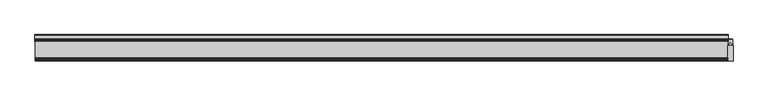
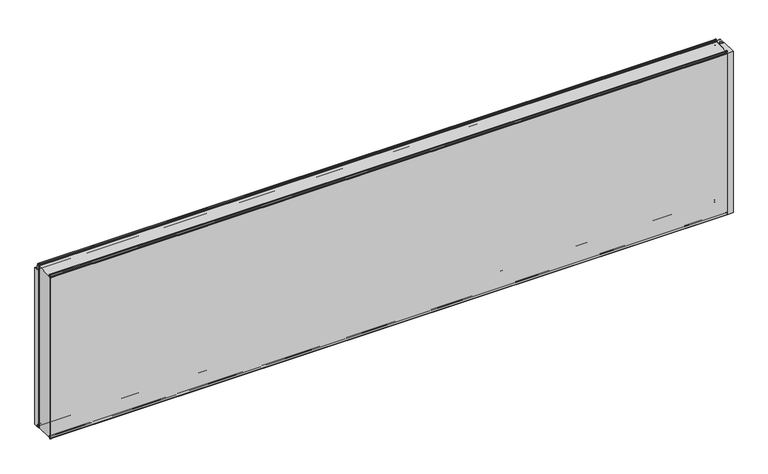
"""IFC4 building model written with IfcOpenShell, lengths in millimetres: plate geometry, Fronttop : Fronttop 150/1000."""

from ifc_helpers import new_model, si_unit, point, frame, frame_2d, origin, origin_with_axes, place, context, project, spatial, polyline, circle_curve, trimmed, segment, composite_curve, outline, extrude, source, transform, mapped, element, save
from ifc_brep_helpers import plane_surface, cylinder_surface, revolved_surface, advanced_brep


def plate_2335a061(model_context):
    return source(origin(), model_context, "Body", "SolidModel", [
        advanced_brep(
        [(-1986.5, 124.0, 1008.0), (-1986.5, 121.0, 1008.0), (-1986.5, 121.0, 1004.0), (-1986.5, 117.0, 1000.0), (-1986.5, 115.0, 1000.0), (-1986.5, 115.0, 1001.0), (-1986.5, 117.0, 1001.0), (-1986.5, 120.0, 1004.0), (-1986.5, 120.0, 1008.0), (-1986.5, 125.0, 1008.0), (-1986.5, 125.0, 1000.0), (-1986.5, 124.0, 1000.0), (1986.5, 125.0, 1008.0), (1986.5, 120.0, 1008.0), (1986.5, 120.0, 1004.0), (1986.5, 117.0, 1001.0), (1986.5, 115.0, 1001.0), (1986.5, 115.0, 1000.0), (1986.5, 117.0, 1000.0), (1986.5, 121.0, 1004.0), (1986.5, 121.0, 1008.0), (1986.5, 124.0, 1008.0), (1986.5, 124.0, 1000.0), (1986.5, 125.0, 1000.0), (-1986.5, 117.0, 2.0), (1986.5, 117.0, 2.0), (1986.5, 115.0, 2.0), (-1986.5, 115.0, 2.0), (-1986.5, 119.0, 4.0), (1986.5, 119.0, 4.0), (-1986.5, 119.0, 8.0), (1986.5, 119.0, 8.0), (-1986.5, 126.0, 8.0), (1986.5, 126.0, 8.0), (-1986.5, 126.0, 0.0), (1986.5, 126.0, 0.0), (-1986.5, 129.0, -3.0), (1986.5, 129.0, -3.0), (-1986.5, 125.0, -3.0), (-1987.5, 125.0, -3.0), (-1987.5, 147.0, -3.0), (-1986.5, 147.0, -3.0), (1986.5, 147.0, -3.0), (1987.5, 147.0, -3.0), (1987.5, 125.0, -3.0), (1986.5, 125.0, -3.0), (-1986.5, 150.0, 0.0), (1986.5, 150.0, 0.0), (-1987.5, 150.0, 0.0), (-1987.5, 150.0, 969.0), (-1986.5, 150.0, 969.0), (1986.5, 150.0, 969.0), (1987.5, 150.0, 969.0), (1987.5, 150.0, 0.0), (-1986.5, 147.0, 972.0), (1986.5, 147.0, 972.0), (-1987.5, 147.0, 972.0), (-1987.5, 128.0, 972.0), (-1986.5, 128.0, 972.0), (1986.5, 128.0, 972.0), (1987.5, 128.0, 972.0), (1987.5, 147.0, 972.0), (-1986.5, 125.0, 975.0), (1986.5, 125.0, 975.0), (-1987.5, 125.0, 975.0), (-1987.5, 125.0, 1000.0), (1987.5, 125.0, 1000.0), (1987.5, 125.0, 975.0), (-1986.5, 124.0, 975.0), (1986.5, 124.0, 975.0), (-1986.5, 128.0, 971.0), (1986.5, 128.0, 971.0), (-1986.5, 147.0, 971.0), (1986.5, 147.0, 971.0), (-1986.5, 149.0, 969.0), (1986.5, 149.0, 969.0), (-1986.5, 149.0, 0.0), (1986.5, 149.0, 0.0), (-1986.5, 147.0, -2.0), (1986.5, 147.0, -2.0), (-1986.5, 129.0, -2.0), (1986.5, 129.0, -2.0), (-1986.5, 127.0, 0.0), (1986.5, 127.0, 0.0), (-1986.5, 127.0, 8.0), (1986.5, 127.0, 8.0), (-1986.5, 118.0, 8.0), (1986.5, 118.0, 8.0), (-1986.5, 118.0, 4.0), (1986.5, 118.0, 4.0), (-1986.5, 117.0, 3.0), (1986.5, 117.0, 3.0), (-1986.5, 115.0, 3.0), (1986.5, 115.0, 3.0), (1987.5, 110.0, 1000.0), (1987.5, 110.0, 0.0), (1987.5, 125.0, 0.0), (1986.5, 125.0, 0.0), (1986.5, 110.0, 0.0), (1986.5, 110.0, 1000.0), (-1987.5, 125.0, 0.0), (-1987.5, 110.0, 0.0), (-1987.5, 110.0, 1000.0), (-1986.5, 110.0, 1000.0), (-1986.5, 110.0, 0.0), (-1986.5, 125.0, 0.0)],
        [
            (0, 1, circle_curve(frame((-1986.5, 122.5, 1008.0), z_axis=(1.0, 0.0, 0.0), x_axis=(0.0, -1.0, 0.0)), 1.5)),
            (1, 2),
            (2, 3, circle_curve(frame((-1986.5, 117.0, 1004.0), z_axis=(-1.0, 0.0, 0.0), x_axis=(0.0, -1.0, 0.0)), 4.0)),
            (3, 4),
            (4, 5),
            (5, 6),
            (6, 7, circle_curve(frame((-1986.5, 117.0, 1004.0), z_axis=(1.0, 0.0, 0.0), x_axis=(0.0, -1.0, 0.0)), 3.0)),
            (7, 8),
            (8, 9, circle_curve(frame((-1986.5, 122.5, 1008.0), z_axis=(-1.0, 0.0, 0.0), x_axis=(0.0, -1.0, 0.0)), 2.5)),
            (9, 10),
            (10, 11),
            (11, 0),
            (12, 13, circle_curve(frame((1986.5, 122.5, 1008.0), z_axis=(1.0, 0.0, 0.0), x_axis=(0.0, -1.0, 0.0)), 2.5)),
            (13, 14),
            (14, 15, circle_curve(frame((1986.5, 117.0, 1004.0), z_axis=(-1.0, 0.0, 0.0), x_axis=(0.0, -1.0, 0.0)), 3.0)),
            (15, 16),
            (16, 17),
            (17, 18),
            (18, 19, circle_curve(frame((1986.5, 117.0, 1004.0), z_axis=(1.0, 0.0, 0.0), x_axis=(0.0, -1.0, 0.0)), 4.0)),
            (19, 20),
            (20, 21, circle_curve(frame((1986.5, 122.5, 1008.0), z_axis=(-1.0, 0.0, 0.0), x_axis=(0.0, -1.0, 0.0)), 1.5)),
            (21, 22),
            (22, 23),
            (23, 12),
            (24, 25),
            (25, 26),
            (26, 27),
            (27, 24),
            (24, 28, circle_curve(frame((-1986.5, 117.0, 4.0), z_axis=(1.0, 0.0, 0.0), x_axis=(0.0, -1.0, 0.0)), 2.0)),
            (28, 29),
            (29, 25, circle_curve(frame((1986.5, 117.0, 4.0), z_axis=(-1.0, 0.0, 0.0), x_axis=(0.0, -1.0, 0.0)), 2.0)),
            (28, 30),
            (30, 31),
            (31, 29),
            (30, 32, circle_curve(frame((-1986.5, 122.5, 8.0), z_axis=(-1.0, 0.0, 0.0), x_axis=(0.0, -1.0, 0.0)), 3.5)),
            (32, 33),
            (33, 31, circle_curve(frame((1986.5, 122.5, 8.0), z_axis=(1.0, 0.0, 0.0), x_axis=(0.0, -1.0, 0.0)), 3.5)),
            (32, 34),
            (34, 35),
            (35, 33),
            (34, 36, circle_curve(frame((-1986.5, 129.0, 0.0), z_axis=(1.0, 0.0, 0.0), x_axis=(0.0, -1.0, 0.0)), 3.0)),
            (36, 37),
            (37, 35, circle_curve(frame((1986.5, 129.0, 0.0), z_axis=(-1.0, 0.0, 0.0), x_axis=(0.0, -1.0, 0.0)), 3.0)),
            (36, 38),
            (38, 39),
            (39, 40),
            (40, 41),
            (41, 42),
            (42, 43),
            (43, 44),
            (44, 45),
            (45, 37),
            (41, 46, circle_curve(frame((-1986.5, 147.0, 0.0), z_axis=(1.0, 0.0, 0.0), x_axis=(0.0, -1.0, 0.0)), 3.0)),
            (46, 47),
            (47, 42, circle_curve(frame((1986.5, 147.0, 0.0), z_axis=(-1.0, 0.0, 0.0), x_axis=(0.0, -1.0, 0.0)), 3.0)),
            (46, 48),
            (48, 49),
            (49, 50),
            (50, 51),
            (51, 52),
            (52, 53),
            (53, 47),
            (50, 54, circle_curve(frame((-1986.5, 147.0, 969.0), z_axis=(1.0, 0.0, 0.0), x_axis=(0.0, -1.0, 0.0)), 3.0)),
            (54, 55),
            (55, 51, circle_curve(frame((1986.5, 147.0, 969.0), z_axis=(-1.0, 0.0, 0.0), x_axis=(0.0, -1.0, 0.0)), 3.0)),
            (54, 56),
            (56, 57),
            (57, 58),
            (58, 59),
            (59, 60),
            (60, 61),
            (61, 55),
            (58, 62, circle_curve(frame((-1986.5, 128.0, 975.0), z_axis=(-1.0, 0.0, 0.0), x_axis=(0.0, -1.0, 0.0)), 3.0)),
            (62, 63),
            (63, 59, circle_curve(frame((1986.5, 128.0, 975.0), z_axis=(1.0, 0.0, 0.0), x_axis=(0.0, -1.0, 0.0)), 3.0)),
            (62, 64),
            (64, 65),
            (65, 10),
            (9, 12),
            (23, 66),
            (66, 67),
            (67, 63),
            (8, 13),
            (7, 14),
            (6, 15),
            (5, 16),
            (4, 17),
            (4, 3),
            (3, 18),
            (18, 17),
            (2, 19),
            (1, 20),
            (0, 21),
            (11, 68),
            (68, 69),
            (69, 22),
            (68, 70, circle_curve(frame((-1986.5, 128.0, 975.0), z_axis=(1.0, 0.0, 0.0), x_axis=(0.0, -1.0, 0.0)), 4.0)),
            (70, 71),
            (71, 69, circle_curve(frame((1986.5, 128.0, 975.0), z_axis=(-1.0, 0.0, 0.0), x_axis=(0.0, -1.0, 0.0)), 4.0)),
            (70, 72),
            (72, 73),
            (73, 71),
            (72, 74, circle_curve(frame((-1986.5, 147.0, 969.0), z_axis=(-1.0, 0.0, 0.0), x_axis=(0.0, -1.0, 0.0)), 2.0)),
            (74, 75),
            (75, 73, circle_curve(frame((1986.5, 147.0, 969.0), z_axis=(1.0, 0.0, 0.0), x_axis=(0.0, -1.0, 0.0)), 2.0)),
            (74, 76),
            (76, 77),
            (77, 75),
            (76, 78, circle_curve(frame((-1986.5, 147.0, 0.0), z_axis=(-1.0, 0.0, 0.0), x_axis=(0.0, -1.0, 0.0)), 2.0)),
            (78, 79),
            (79, 77, circle_curve(frame((1986.5, 147.0, 0.0), z_axis=(1.0, 0.0, 0.0), x_axis=(0.0, -1.0, 0.0)), 2.0)),
            (78, 80),
            (80, 81),
            (81, 79),
            (80, 82, circle_curve(frame((-1986.5, 129.0, 0.0), z_axis=(-1.0, 0.0, 0.0), x_axis=(0.0, -1.0, 0.0)), 2.0)),
            (82, 83),
            (83, 81, circle_curve(frame((1986.5, 129.0, 0.0), z_axis=(1.0, 0.0, 0.0), x_axis=(0.0, -1.0, 0.0)), 2.0)),
            (82, 84),
            (84, 85),
            (85, 83),
            (84, 86, circle_curve(frame((-1986.5, 122.5, 8.0), z_axis=(1.0, 0.0, 0.0), x_axis=(0.0, -1.0, 0.0)), 4.5)),
            (86, 87),
            (87, 85, circle_curve(frame((1986.5, 122.5, 8.0), z_axis=(-1.0, 0.0, 0.0), x_axis=(0.0, -1.0, 0.0)), 4.5)),
            (86, 88),
            (88, 89),
            (89, 87),
            (88, 90, circle_curve(frame((-1986.5, 117.0, 4.0), z_axis=(-1.0, 0.0, 0.0), x_axis=(0.0, -1.0, 0.0)), 1.0)),
            (90, 91),
            (91, 89, circle_curve(frame((1986.5, 117.0, 4.0), z_axis=(1.0, 0.0, 0.0), x_axis=(0.0, -1.0, 0.0)), 1.0)),
            (90, 92),
            (92, 93),
            (93, 91),
            (26, 93),
            (92, 27),
            (66, 94),
            (94, 95),
            (95, 96),
            (96, 44),
            (43, 53, circle_curve(frame((1987.5, 147.0, 0.0), z_axis=(1.0, 0.0, 0.0), x_axis=(0.0, 1.0, 0.0)), 3.0)),
            (52, 61, circle_curve(frame((1987.5, 147.0, 969.0), z_axis=(1.0, 0.0, 0.0), x_axis=(0.0, 1.0, 0.0)), 3.0)),
            (60, 67, circle_curve(frame((1987.5, 128.0, 975.0), z_axis=(-1.0, 0.0, 0.0), x_axis=(0.0, 1.0, 0.0)), 3.0)),
            (45, 97),
            (97, 98),
            (98, 99),
            (99, 17),
            (18, 22),
            (99, 94),
            (98, 95),
            (97, 96),
            (64, 57, circle_curve(frame((-1987.5, 128.0, 975.0), z_axis=(1.0, 0.0, 0.0), x_axis=(0.0, 1.0, 0.0)), 3.0)),
            (56, 49, circle_curve(frame((-1987.5, 147.0, 969.0), z_axis=(-1.0, 0.0, 0.0), x_axis=(0.0, 1.0, 0.0)), 3.0)),
            (48, 40, circle_curve(frame((-1987.5, 147.0, 0.0), z_axis=(-1.0, 0.0, 0.0), x_axis=(0.0, 1.0, 0.0)), 3.0)),
            (39, 100),
            (100, 101),
            (101, 102),
            (102, 65),
            (103, 104),
            (104, 105),
            (105, 38),
            (11, 3),
            (4, 103),
            (102, 103),
            (101, 104),
            (100, 105),
        ],
        [
            plane_surface(frame((-1986.5, 0.0, 0.0), z_axis=(-1.0, 0.0, 0.0), x_axis=(0.0, 0.0, 1.0))),
            plane_surface(frame((1986.5, 0.0, 0.0), z_axis=(1.0, 0.0, 0.0), x_axis=(0.0, 0.0, 1.0))),
            plane_surface(frame((-1986.5, 117.0, 2.0), z_axis=(0.0, 0.0, -1.0), x_axis=(1.0, 0.0, 0.0))),
            cylinder_surface(frame((-1986.5, 117.0, 4.0), z_axis=(-1.0, 0.0, 0.0), x_axis=(0.0, -1.0, 0.0)), 2.0),
            plane_surface(frame((-1986.5, 119.0, 8.0), z_axis=(0.0, 1.0, 0.0), x_axis=(1.0, 0.0, 0.0))),
            revolved_surface(polyline([(1986.5, 119.0, 8.0), (-1986.5, 119.0, 8.0)]), (-1986.5, 122.5, 8.0), (1.0, 0.0, 0.0)),
            plane_surface(frame((-1986.5, 126.0, 0.0), z_axis=(0.0, -1.0, 0.0), x_axis=(1.0, 0.0, 0.0))),
            cylinder_surface(frame((-1986.5, 129.0, 0.0), z_axis=(-1.0, 0.0, 0.0), x_axis=(0.0, -1.0, 0.0)), 3.0),
            plane_surface(frame((-1986.5, 147.0, -3.0), z_axis=(0.0, 0.0, -1.0), x_axis=(1.0, 0.0, 0.0))),
            cylinder_surface(frame((-1986.5, 147.0, 0.0), z_axis=(-1.0, 0.0, 0.0), x_axis=(0.0, -1.0, 0.0)), 3.0),
            plane_surface(frame((-1986.5, 150.0, 969.0), z_axis=(0.0, 1.0, 0.0), x_axis=(1.0, 0.0, 0.0))),
            cylinder_surface(frame((-1986.5, 147.0, 969.0), z_axis=(-1.0, 0.0, 0.0), x_axis=(0.0, -1.0, 0.0)), 3.0),
            plane_surface(frame((-1986.5, 128.0, 972.0), z_axis=(0.0, 0.0, 1.0), x_axis=(1.0, 0.0, 0.0))),
            revolved_surface(polyline([(1986.5, 125.0, 975.0), (-1986.5, 125.0, 975.0)]), (-1986.5, 128.0, 975.0), (1.0, 0.0, 0.0)),
            plane_surface(frame((-1986.5, 125.0, 1008.0), z_axis=(0.0, 1.0, 0.0), x_axis=(1.0, 0.0, 0.0))),
            cylinder_surface(frame((-1986.5, 122.5, 1008.0), z_axis=(-1.0, 0.0, 0.0), x_axis=(0.0, -1.0, 0.0)), 2.5),
            plane_surface(frame((-1986.5, 120.0, 1004.0), z_axis=(0.0, -1.0, 0.0), x_axis=(1.0, 0.0, 0.0))),
            revolved_surface(polyline([(1986.5, 114.0, 1004.0), (-1986.5, 114.0, 1004.0)]), (-1986.5, 117.0, 1004.0), (1.0, 0.0, 0.0)),
            plane_surface(frame((-1986.5, 115.0, 1001.0), z_axis=(0.0, 0.0, 1.0), x_axis=(1.0, 0.0, 0.0))),
            plane_surface(frame((-1986.5, 115.0, 1000.0), z_axis=(0.0, -1.0, 0.0), x_axis=(1.0, 0.0, 0.0))),
            plane_surface(frame((-1986.5, 117.0, 1000.0), z_axis=(0.0, 0.0, -1.0), x_axis=(1.0, 0.0, 0.0))),
            cylinder_surface(frame((-1986.5, 117.0, 1004.0), z_axis=(-1.0, 0.0, 0.0), x_axis=(0.0, -1.0, 0.0)), 4.0),
            plane_surface(frame((-1986.5, 121.0, 1008.0), z_axis=(0.0, 1.0, 0.0), x_axis=(1.0, 0.0, 0.0))),
            revolved_surface(polyline([(1986.5, 121.0, 1008.0), (-1986.5, 121.0, 1008.0)]), (-1986.5, 122.5, 1008.0), (1.0, 0.0, 0.0)),
            plane_surface(frame((-1986.5, 124.0, 975.0), z_axis=(0.0, -1.0, 0.0), x_axis=(1.0, 0.0, 0.0))),
            cylinder_surface(frame((-1986.5, 128.0, 975.0), z_axis=(-1.0, 0.0, 0.0), x_axis=(0.0, -1.0, 0.0)), 4.0),
            plane_surface(frame((-1986.5, 147.0, 971.0), z_axis=(0.0, 0.0, -1.0), x_axis=(1.0, 0.0, 0.0))),
            revolved_surface(polyline([(1986.5, 145.0, 969.0), (-1986.5, 145.0, 969.0)]), (-1986.5, 147.0, 969.0), (1.0, 0.0, 0.0)),
            plane_surface(frame((-1986.5, 149.0, 0.0), z_axis=(0.0, -1.0, 0.0), x_axis=(1.0, 0.0, 0.0))),
            revolved_surface(polyline([(1986.5, 145.0, 0.0), (-1986.5, 145.0, 0.0)]), (-1986.5, 147.0, 0.0), (1.0, 0.0, 0.0)),
            plane_surface(frame((-1986.5, 129.0, -2.0), z_axis=(0.0, 0.0, 1.0), x_axis=(1.0, 0.0, 0.0))),
            revolved_surface(polyline([(1986.5, 127.0, 0.0), (-1986.5, 127.0, 0.0)]), (-1986.5, 129.0, 0.0), (1.0, 0.0, 0.0)),
            plane_surface(frame((-1986.5, 127.0, 8.0), z_axis=(0.0, 1.0, 0.0), x_axis=(1.0, 0.0, 0.0))),
            cylinder_surface(frame((-1986.5, 122.5, 8.0), z_axis=(-1.0, 0.0, 0.0), x_axis=(0.0, -1.0, 0.0)), 4.5),
            plane_surface(frame((-1986.5, 118.0, 4.0), z_axis=(0.0, -1.0, 0.0), x_axis=(1.0, 0.0, 0.0))),
            revolved_surface(polyline([(1986.5, 116.0, 4.0), (-1986.5, 116.0, 4.0)]), (-1986.5, 117.0, 4.0), (1.0, 0.0, 0.0)),
            plane_surface(frame((-1986.5, 115.0, 3.0), z_axis=(0.0, 0.0, 1.0), x_axis=(1.0, 0.0, 0.0))),
            plane_surface(frame((-1986.5, 115.0, 2.0), z_axis=(0.0, -1.0, 0.0), x_axis=(1.0, 0.0, 0.0))),
            plane_surface(frame((1987.5, 125.0, 1000.0), z_axis=(1.0, 0.0, 0.0), x_axis=(0.0, -1.0, 0.0))),
            plane_surface(frame((1986.5, 125.0, 1000.0), z_axis=(-1.0, 0.0, 0.0), x_axis=(0.0, 1.0, 0.0))),
            plane_surface(frame((1987.5, 125.0, 1000.0), z_axis=(0.0, 0.0, 1.0), x_axis=(-1.0, 0.0, 0.0))),
            plane_surface(frame((1987.5, 110.0, 1000.0), z_axis=(0.0, -1.0, 0.0), x_axis=(-1.0, 0.0, 0.0))),
            plane_surface(frame((1987.5, 110.0, 0.0), z_axis=(0.0, 0.0, -1.0), x_axis=(-1.0, 0.0, 0.0))),
            cylinder_surface(frame((1986.5, 147.0, 0.0), z_axis=(1.0, 0.0, 0.0), x_axis=(0.0, 1.0, 0.0)), 3.0),
            cylinder_surface(frame((1986.5, 147.0, 969.0), z_axis=(1.0, 0.0, 0.0), x_axis=(0.0, 1.0, 0.0)), 3.0),
            revolved_surface(polyline([(1986.5, 131.0, 975.0), (1987.5, 131.0, 975.0)]), (1986.5, 128.0, 975.0), (-1.0, 0.0, 0.0)),
            plane_surface(frame((-1987.5, 125.0, 1000.0), z_axis=(-1.0, 0.0, 0.0), x_axis=(0.0, 1.0, 0.0))),
            plane_surface(frame((-1986.5, 125.0, 1000.0), z_axis=(1.0, 0.0, 0.0), x_axis=(0.0, -1.0, 0.0))),
            plane_surface(frame((-1986.5, 125.0, 1000.0), z_axis=(0.0, 0.0, 1.0), x_axis=(-1.0, 0.0, 0.0))),
            plane_surface(frame((-1986.5, 110.0, 1000.0), z_axis=(0.0, -1.0, 0.0), x_axis=(-1.0, 0.0, 0.0))),
            plane_surface(frame((-1986.5, 110.0, 0.0), z_axis=(0.0, 0.0, -1.0), x_axis=(-1.0, 0.0, 0.0))),
            cylinder_surface(frame((-1987.5, 147.0, 0.0), z_axis=(1.0, 0.0, 0.0), x_axis=(0.0, 1.0, 0.0)), 3.0),
            cylinder_surface(frame((-1987.5, 147.0, 969.0), z_axis=(1.0, 0.0, 0.0), x_axis=(0.0, 1.0, 0.0)), 3.0),
            revolved_surface(polyline([(-1987.5, 131.0, 975.0), (-1986.5, 131.0, 975.0)]), (-1987.5, 128.0, 975.0), (-1.0, 0.0, 0.0)),
            plane_surface(frame((1987.5, 125.0, 0.0), z_axis=(0.0, -1.0, 0.0), x_axis=(-1.0, 0.0, 0.0))),
            plane_surface(frame((-1986.5, 125.0, 0.0), z_axis=(0.0, -1.0, 0.0), x_axis=(-1.0, 0.0, 0.0))),
        ],
        [
            (0, [[1, 2, 3, 4, 5, 6, 7, 8, 9, 10, 11, 12]]),
            (1, [[13, 14, 15, 16, 17, 18, 19, 20, 21, 22, 23, 24]]),
            (2, [[25, 26, 27, 28]]),
            (3, [[-25, 29, 30, 31]]),
            (4, [[-30, 32, 33, 34]]),
            (5, [[-33, 35, 36, 37]]),
            (6, [[-36, 38, 39, 40]]),
            (7, [[-39, 41, 42, 43]]),
            (8, [[-42, 44, 45, 46, 47, 48, 49, 50, 51, 52]]),
            (9, [[-48, 53, 54, 55]]),
            (10, [[-54, 56, 57, 58, 59, 60, 61, 62]]),
            (11, [[-59, 63, 64, 65]]),
            (12, [[-64, 66, 67, 68, 69, 70, 71, 72]]),
            (13, [[-69, 73, 74, 75]]),
            (14, [[-74, 76, 77, 78, -10, 79, -24, 80, 81, 82]]),
            (15, [[-9, 83, -13, -79]]),
            (16, [[-8, 84, -14, -83]]),
            (17, [[-7, 85, -15, -84]]),
            (18, [[-6, 86, -16, -85]]),
            (19, [[-5, 87, -17, -86]]),
            (20, [[-87, 88, 89, 90]]),
            (21, [[-3, 91, -19, -89]]),
            (22, [[-2, 92, -20, -91]]),
            (23, [[-1, 93, -21, -92]]),
            (24, [[-93, -12, 94, 95, 96, -22]]),
            (25, [[-95, 97, 98, 99]]),
            (26, [[-98, 100, 101, 102]]),
            (27, [[-101, 103, 104, 105]]),
            (28, [[-104, 106, 107, 108]]),
            (29, [[-107, 109, 110, 111]]),
            (30, [[-110, 112, 113, 114]]),
            (31, [[-113, 115, 116, 117]]),
            (32, [[-116, 118, 119, 120]]),
            (33, [[-119, 121, 122, 123]]),
            (34, [[-122, 124, 125, 126]]),
            (35, [[-125, 127, 128, 129]]),
            (36, [[-128, 130, 131, 132]]),
            (37, [[-27, 133, -131, 134]]),
            (38, [[135, 136, 137, 138, -50, 139, -61, 140, -71, 141, -81]]),
            (39, [[142, 143, 144, 145, -90, 146, -96, -99, -102, -105, -108, -111, -114, -117, -120, -123, -126, -129, -132, -133, -26, -31, -34, -37, -40, -43, -52]]),
            (40, [[-135, -80, -23, -146, -18, -145, 147]]),
            (41, [[-136, -147, -144, 148]]),
            (42, [[-137, -148, -143, 149]]),
            (43, [[-139, -49, -55, -62]]),
            (44, [[-140, -60, -65, -72]]),
            (45, [[-141, -70, -75, -82]]),
            (46, [[-77, 150, -67, 151, -57, 152, -46, 153, 154, 155, 156]]),
            (47, [[157, 158, 159, -44, -41, -38, -35, -32, -29, -28, -134, -130, -127, -124, -121, -118, -115, -112, -109, -106, -103, -100, -97, -94, 160, -88, 161]]),
            (48, [[-156, 162, -161, -4, -160, -11, -78]]),
            (49, [[-155, 163, -157, -162]]),
            (50, [[-154, 164, -158, -163]]),
            (51, [[-152, -56, -53, -47]]),
            (52, [[-151, -66, -63, -58]]),
            (53, [[-150, -76, -73, -68]]),
            (54, [[-138, -149, -142, -51]]),
            (55, [[-153, -45, -159, -164]]),
        ],
    ),
        extrude(outline(composite_curve([segment(polyline([(1987.4998455, 123.5), (1999.25, 123.5), (1999.25, 107.5), (2000.75, 107.5), (2000.75, 123.5), (2012.5001545, 123.5), (2012.5001545, 90.0), (2009.75, 90.0), (2009.75, 92.5)]), True, "CONTINUOUS"), segment(trimmed(circle_curve(frame_2d((1991.9661979, 89.3183984)), 18.0661619), [point((2009.75, 92.5))], [point((2000.0, 105.5))], True, "CARTESIAN"), True, "CONTINUOUS"), segment(trimmed(circle_curve(frame_2d((2008.0338021, 89.3183984)), 18.0661619), [point((2000.0, 105.5))], [point((1990.25, 92.5))], True, "CARTESIAN"), True, "CONTINUOUS"), segment(polyline([(1990.25, 92.5), (1990.25, 90.0), (1987.4998455, 90.0), (1987.4998455, 123.5)]), True, "CONTINUOUS")], self_intersect=False)), origin_with_axes(), (0.0, 0.0, 1.0), 1000.0),
        extrude(outline(polyline([(2015.5, 0.0), (1984.5, 0.0), (1984.5, 88.0), (2015.5, 88.0), (2015.5, 0.0)])), origin_with_axes(), (0.0, 0.0, 1.0), 1000.0),
        extrude(outline(polyline([(1988.4948846, 125.0), (2011.5051154, 125.0), (2011.5051154, 123.5), (2000.6502496, 123.5), (2000.6502496, 109.0759655), (1999.35, 109.0759655), (1999.35, 123.5), (1988.4948846, 123.5), (1988.4948846, 125.0)])), origin_with_axes(), (0.0, 0.0, 1.0), 1000.0),
        advanced_brep(
        [(-1984.5, 13.0, 1001.0), (-1984.5, 15.0, 1001.0), (-1984.5, 15.0, 1000.0), (-1984.5, 13.0, 1000.0), (-1984.5, 9.0, 1004.0), (-1984.5, 9.0, 1008.0), (-1984.5, 6.0, 1008.0), (-1984.5, 6.0, 999.5), (-1984.5, 2.1134897, 996.0214069), (-1984.5, 1.0, 995.0), (-1984.5, 1.0, -0.5), (-1984.5, 3.0, -0.5), (-1984.5, 3.0, 8.0), (-1984.5, 12.0, 8.0), (-1984.5, 12.0, 4.0), (-1984.5, 13.0, 3.0), (-1984.5, 15.0, 3.0), (-1984.5, 15.0, 2.0), (-1984.5, 13.0, 2.0), (-1984.5, 11.0, 4.0), (-1984.5, 11.0, 8.0), (-1984.5, 4.0, 8.0), (-1984.5, 4.0, -0.5), (-1984.5, 0.0, -0.5), (-1984.5, 0.0, 995.0), (-1984.5, 2.220863, 996.9877675), (-1984.5, 5.0, 999.5), (-1984.5, 5.0, 1008.0), (-1984.5, 10.0, 1008.0), (-1984.5, 10.0, 1004.0), (1984.5, 13.0, 1001.0), (1984.5, 10.0, 1004.0), (1984.5, 10.0, 1008.0), (1984.5, 5.0, 1008.0), (1984.5, 5.0, 999.5), (1984.5, 2.2239212, 997.0152907), (1984.5, 0.0, 995.0), (1984.5, 0.0, -0.5), (1984.5, 4.0, -0.5), (1984.5, 4.0, 8.0), (1984.5, 11.0, 8.0), (1984.5, 11.0, 4.0), (1984.5, 13.0, 2.0), (1984.5, 15.0, 2.0), (1984.5, 15.0, 3.0), (1984.5, 13.0, 3.0), (1984.5, 12.0, 4.0), (1984.5, 12.0, 8.0), (1984.5, 3.0, 8.0), (1984.5, 3.0, -0.5), (1984.5, 1.0, -0.5), (1984.5, 1.0, 995.0), (1984.5, 2.1104315, 995.9938837), (1984.5, 6.0, 999.5), (1984.5, 6.0, 1008.0), (1984.5, 9.0, 1008.0), (1984.5, 9.0, 1004.0), (1984.5, 13.0, 1000.0), (1984.5, 15.0, 1000.0), (1984.5, 15.0, 1001.0)],
        [
            (0, 1),
            (1, 2),
            (2, 3),
            (3, 4, circle_curve(frame((-1984.5, 13.0, 1004.0), z_axis=(-1.0, 0.0, 0.0), x_axis=(0.0, -1.0, 0.0)), 4.0)),
            (4, 5),
            (5, 6, circle_curve(frame((-1984.5, 7.5, 1008.0), z_axis=(1.0, 0.0, 0.0), x_axis=(0.0, -1.0, 0.0)), 1.5)),
            (6, 7),
            (7, 8, circle_curve(frame((-1984.5, 2.5, 999.5), z_axis=(-1.0, 0.0, 0.0), x_axis=(0.0, -1.0, 0.0)), 3.5)),
            (8, 9, circle_curve(frame((-1984.5, 2.0, 995.0), z_axis=(1.0, 0.0, 0.0), x_axis=(0.0, -1.0, 0.0)), 1.0)),
            (9, 10),
            (10, 11, circle_curve(frame((-1984.5, 2.0, -0.5), z_axis=(1.0, 0.0, 0.0), x_axis=(0.0, -1.0, 0.0)), 1.0)),
            (11, 12),
            (12, 13, circle_curve(frame((-1984.5, 7.5, 8.0), z_axis=(-1.0, 0.0, 0.0), x_axis=(0.0, -1.0, 0.0)), 4.5)),
            (13, 14),
            (14, 15, circle_curve(frame((-1984.5, 13.0, 4.0), z_axis=(1.0, 0.0, 0.0), x_axis=(0.0, -1.0, 0.0)), 1.0)),
            (15, 16),
            (16, 17),
            (17, 18),
            (18, 19, circle_curve(frame((-1984.5, 13.0, 4.0), z_axis=(-1.0, 0.0, 0.0), x_axis=(0.0, -1.0, 0.0)), 2.0)),
            (19, 20),
            (20, 21, circle_curve(frame((-1984.5, 7.5, 8.0), z_axis=(1.0, 0.0, 0.0), x_axis=(0.0, -1.0, 0.0)), 3.5)),
            (21, 22),
            (22, 23, circle_curve(frame((-1984.5, 2.0, -0.5), z_axis=(-1.0, 0.0, 0.0), x_axis=(0.0, -1.0, 0.0)), 2.0)),
            (23, 24),
            (24, 25, circle_curve(frame((-1984.5, 2.0, 995.0), z_axis=(-1.0, 0.0, 0.0), x_axis=(0.0, -1.0, 0.0)), 2.0)),
            (25, 26, circle_curve(frame((-1984.5, 2.5, 999.5), z_axis=(1.0, 0.0, 0.0), x_axis=(0.0, -1.0, 0.0)), 2.5)),
            (26, 27),
            (27, 28, circle_curve(frame((-1984.5, 7.5, 1008.0), z_axis=(-1.0, 0.0, 0.0), x_axis=(0.0, -1.0, 0.0)), 2.5)),
            (28, 29),
            (29, 0, circle_curve(frame((-1984.5, 13.0, 1004.0), z_axis=(1.0, 0.0, 0.0), x_axis=(0.0, -1.0, 0.0)), 3.0)),
            (30, 31, circle_curve(frame((1984.5, 13.0, 1004.0), z_axis=(-1.0, 0.0, 0.0), x_axis=(0.0, -1.0, 0.0)), 3.0)),
            (31, 32),
            (32, 33, circle_curve(frame((1984.5, 7.5, 1008.0), z_axis=(1.0, 0.0, 0.0), x_axis=(0.0, -1.0, 0.0)), 2.5)),
            (33, 34),
            (34, 35, circle_curve(frame((1984.5, 2.5, 999.5), z_axis=(-1.0, 0.0, 0.0), x_axis=(0.0, -1.0, 0.0)), 2.5)),
            (35, 36, circle_curve(frame((1984.5, 2.0, 995.0), z_axis=(1.0, 0.0, 0.0), x_axis=(0.0, -1.0, 0.0)), 2.0)),
            (36, 37),
            (37, 38, circle_curve(frame((1984.5, 2.0, -0.5), z_axis=(1.0, 0.0, 0.0), x_axis=(0.0, -1.0, 0.0)), 2.0)),
            (38, 39),
            (39, 40, circle_curve(frame((1984.5, 7.5, 8.0), z_axis=(-1.0, 0.0, 0.0), x_axis=(0.0, -1.0, 0.0)), 3.5)),
            (40, 41),
            (41, 42, circle_curve(frame((1984.5, 13.0, 4.0), z_axis=(1.0, 0.0, 0.0), x_axis=(0.0, -1.0, 0.0)), 2.0)),
            (42, 43),
            (43, 44),
            (44, 45),
            (45, 46, circle_curve(frame((1984.5, 13.0, 4.0), z_axis=(-1.0, 0.0, 0.0), x_axis=(0.0, -1.0, 0.0)), 1.0)),
            (46, 47),
            (47, 48, circle_curve(frame((1984.5, 7.5, 8.0), z_axis=(1.0, 0.0, 0.0), x_axis=(0.0, -1.0, 0.0)), 4.5)),
            (48, 49),
            (49, 50, circle_curve(frame((1984.5, 2.0, -0.5), z_axis=(-1.0, 0.0, 0.0), x_axis=(0.0, -1.0, 0.0)), 1.0)),
            (50, 51),
            (51, 52, circle_curve(frame((1984.5, 2.0, 995.0), z_axis=(-1.0, 0.0, 0.0), x_axis=(0.0, -1.0, 0.0)), 1.0)),
            (52, 53, circle_curve(frame((1984.5, 2.5, 999.5), z_axis=(1.0, 0.0, 0.0), x_axis=(0.0, -1.0, 0.0)), 3.5)),
            (53, 54),
            (54, 55, circle_curve(frame((1984.5, 7.5, 1008.0), z_axis=(-1.0, 0.0, 0.0), x_axis=(0.0, -1.0, 0.0)), 1.5)),
            (55, 56),
            (56, 57, circle_curve(frame((1984.5, 13.0, 1004.0), z_axis=(1.0, 0.0, 0.0), x_axis=(0.0, -1.0, 0.0)), 4.0)),
            (57, 58),
            (58, 59),
            (59, 30),
            (0, 30),
            (59, 1),
            (58, 2),
            (57, 3),
            (56, 4),
            (55, 5),
            (54, 6),
            (53, 7),
            (52, 8),
            (51, 9),
            (50, 10),
            (49, 11),
            (48, 12),
            (47, 13),
            (46, 14),
            (45, 15),
            (44, 16),
            (43, 17),
            (42, 18),
            (41, 19),
            (40, 20),
            (39, 21),
            (38, 22),
            (37, 23),
            (36, 24),
            (35, 25),
            (34, 26),
            (33, 27),
            (32, 28),
            (31, 29),
        ],
        [
            plane_surface(frame((-1984.5, 0.0, 0.0), z_axis=(-1.0, 0.0, 0.0), x_axis=(0.0, 0.0, 1.0))),
            plane_surface(frame((1984.5, 0.0, 0.0), z_axis=(1.0, 0.0, 0.0), x_axis=(0.0, 0.0, 1.0))),
            plane_surface(frame((-1984.5, 13.0, 1001.0), z_axis=(0.0, 0.0, 1.0), x_axis=(1.0, 0.0, 0.0))),
            plane_surface(frame((-1984.5, 15.0, 1001.0), z_axis=(0.0, 1.0, 0.0), x_axis=(1.0, 0.0, 0.0))),
            plane_surface(frame((-1984.5, 15.0, 1000.0), z_axis=(0.0, 0.0, -1.0), x_axis=(1.0, 0.0, 0.0))),
            cylinder_surface(frame((-1984.5, 13.0, 1004.0), z_axis=(-1.0, 0.0, 0.0), x_axis=(0.0, -1.0, 0.0)), 4.0),
            plane_surface(frame((-1984.5, 9.0, 1004.0), z_axis=(0.0, -1.0, 0.0), x_axis=(1.0, 0.0, 0.0))),
            revolved_surface(polyline([(1984.5, 6.0, 1008.0), (-1984.5, 6.0, 1008.0)]), (-1984.5, 7.5, 1008.0), (1.0, 0.0, 0.0)),
            plane_surface(frame((-1984.5, 6.0, 1008.0), z_axis=(0.0, 1.0, 0.0), x_axis=(1.0, 0.0, 0.0))),
            cylinder_surface(frame((-1984.5, 2.5, 999.5), z_axis=(-1.0, 0.0, 0.0), x_axis=(0.0, -1.0, 0.0)), 3.5),
            revolved_surface(polyline([(1984.5, 1.0, 995.0), (-1984.5, 1.0, 995.0)]), (-1984.5, 2.0, 995.0), (1.0, 0.0, 0.0)),
            plane_surface(frame((-1984.5, 1.0, 995.0), z_axis=(0.0, 1.0, 0.0), x_axis=(1.0, 0.0, 0.0))),
            revolved_surface(polyline([(1984.5, 1.0, -0.5), (-1984.5, 1.0, -0.5)]), (-1984.5, 2.0, -0.5), (1.0, 0.0, 0.0)),
            plane_surface(frame((-1984.5, 3.0, -0.5), z_axis=(0.0, -1.0, 0.0), x_axis=(1.0, 0.0, 0.0))),
            cylinder_surface(frame((-1984.5, 7.5, 8.0), z_axis=(-1.0, 0.0, 0.0), x_axis=(0.0, -1.0, 0.0)), 4.5),
            plane_surface(frame((-1984.5, 12.0, 8.0), z_axis=(0.0, 1.0, 0.0), x_axis=(1.0, 0.0, 0.0))),
            revolved_surface(polyline([(1984.5, 12.0, 4.0), (-1984.5, 12.0, 4.0)]), (-1984.5, 13.0, 4.0), (1.0, 0.0, 0.0)),
            plane_surface(frame((-1984.5, 13.0, 3.0), z_axis=(0.0, 0.0, 1.0), x_axis=(1.0, 0.0, 0.0))),
            plane_surface(frame((-1984.5, 15.0, 3.0), z_axis=(0.0, 1.0, 0.0), x_axis=(1.0, 0.0, 0.0))),
            plane_surface(frame((-1984.5, 15.0, 2.0), z_axis=(0.0, 0.0, -1.0), x_axis=(1.0, 0.0, 0.0))),
            cylinder_surface(frame((-1984.5, 13.0, 4.0), z_axis=(-1.0, 0.0, 0.0), x_axis=(0.0, -1.0, 0.0)), 2.0),
            plane_surface(frame((-1984.5, 11.0, 4.0), z_axis=(0.0, -1.0, 0.0), x_axis=(1.0, 0.0, 0.0))),
            revolved_surface(polyline([(1984.5, 4.0, 8.0), (-1984.5, 4.0, 8.0)]), (-1984.5, 7.5, 8.0), (1.0, 0.0, 0.0)),
            plane_surface(frame((-1984.5, 4.0, 8.0), z_axis=(0.0, 1.0, 0.0), x_axis=(1.0, 0.0, 0.0))),
            cylinder_surface(frame((-1984.5, 2.0, -0.5), z_axis=(-1.0, 0.0, 0.0), x_axis=(0.0, -1.0, 0.0)), 2.0),
            plane_surface(frame((-1984.5, 0.0, -0.5), z_axis=(0.0, -1.0, 0.0), x_axis=(1.0, 0.0, 0.0))),
            cylinder_surface(frame((-1984.5, 2.0, 995.0), z_axis=(-1.0, 0.0, 0.0), x_axis=(0.0, -1.0, 0.0)), 2.0),
            revolved_surface(polyline([(1984.5, 0.0, 999.5), (-1984.5, 0.0, 999.5)]), (-1984.5, 2.5, 999.5), (1.0, 0.0, 0.0)),
            plane_surface(frame((-1984.5, 5.0, 999.5), z_axis=(0.0, -1.0, 0.0), x_axis=(1.0, 0.0, 0.0))),
            cylinder_surface(frame((-1984.5, 7.5, 1008.0), z_axis=(-1.0, 0.0, 0.0), x_axis=(0.0, -1.0, 0.0)), 2.5),
            plane_surface(frame((-1984.5, 10.0, 1008.0), z_axis=(0.0, 1.0, 0.0), x_axis=(1.0, 0.0, 0.0))),
            revolved_surface(polyline([(1984.5, 10.0, 1004.0), (-1984.5, 10.0, 1004.0)]), (-1984.5, 13.0, 1004.0), (1.0, 0.0, 0.0)),
        ],
        [
            (0, [[1, 2, 3, 4, 5, 6, 7, 8, 9, 10, 11, 12, 13, 14, 15, 16, 17, 18, 19, 20, 21, 22, 23, 24, 25, 26, 27, 28, 29, 30]]),
            (1, [[31, 32, 33, 34, 35, 36, 37, 38, 39, 40, 41, 42, 43, 44, 45, 46, 47, 48, 49, 50, 51, 52, 53, 54, 55, 56, 57, 58, 59, 60]]),
            (2, [[-1, 61, -60, 62]]),
            (3, [[-2, -62, -59, 63]]),
            (4, [[-3, -63, -58, 64]]),
            (5, [[-4, -64, -57, 65]]),
            (6, [[-5, -65, -56, 66]]),
            (7, [[-6, -66, -55, 67]]),
            (8, [[-7, -67, -54, 68]]),
            (9, [[-8, -68, -53, 69]]),
            (10, [[-9, -69, -52, 70]]),
            (11, [[-10, -70, -51, 71]]),
            (12, [[-11, -71, -50, 72]]),
            (13, [[-12, -72, -49, 73]]),
            (14, [[-13, -73, -48, 74]]),
            (15, [[-14, -74, -47, 75]]),
            (16, [[-15, -75, -46, 76]]),
            (17, [[-16, -76, -45, 77]]),
            (18, [[-17, -77, -44, 78]]),
            (19, [[-18, -78, -43, 79]]),
            (20, [[-19, -79, -42, 80]]),
            (21, [[-20, -80, -41, 81]]),
            (22, [[-21, -81, -40, 82]]),
            (23, [[-22, -82, -39, 83]]),
            (24, [[-23, -83, -38, 84]]),
            (25, [[-24, -84, -37, 85]]),
            (26, [[-25, -85, -36, 86]]),
            (27, [[-26, -86, -35, 87]]),
            (28, [[-27, -87, -34, 88]]),
            (29, [[-28, -88, -33, 89]]),
            (30, [[-29, -89, -32, 90]]),
            (31, [[-30, -90, -31, -61]]),
        ],
    ),
        extrude(outline(composite_curve([segment(polyline([(15.0, 3.0), (13.0, 3.0)]), True, "CONTINUOUS"), segment(trimmed(circle_curve(frame_2d((13.0, 4.0)), 1.0), [point((13.0, 3.0))], [point((12.0, 4.0))], False, "CARTESIAN"), True, "CONTINUOUS"), segment(polyline([(12.0, 4.0), (12.0, 8.0)]), True, "CONTINUOUS"), segment(trimmed(circle_curve(frame_2d((7.5, 8.0)), 4.5), [point((12.0, 8.0))], [point((3.0, 8.0))], True, "CARTESIAN"), True, "CONTINUOUS"), segment(polyline([(3.0, 8.0), (3.0, -0.5)]), True, "CONTINUOUS"), segment(trimmed(circle_curve(frame_2d((2.0, -0.5)), 1.0), [point((3.0, -0.5))], [point((1.0, -0.5))], False, "CARTESIAN"), True, "CONTINUOUS"), segment(polyline([(1.0, -0.5), (1.0, 995.0278643)]), True, "CONTINUOUS"), segment(trimmed(circle_curve(frame_2d((2.0, 995.0278643)), 1.0), [point((1.0, 995.0278643))], [point((2.1111111, 996.0216723))], False, "CARTESIAN"), True, "CONTINUOUS"), segment(trimmed(circle_curve(frame_2d((2.5, 999.5)), 3.5), [point((2.1111111, 996.0216723))], [point((6.0, 999.5))], True, "CARTESIAN"), True, "CONTINUOUS"), segment(polyline([(6.0, 999.5), (6.0, 1008.0)]), True, "CONTINUOUS"), segment(trimmed(circle_curve(frame_2d((7.5, 1008.0)), 1.5), [point((6.0, 1008.0))], [point((9.0, 1008.0))], False, "CARTESIAN"), True, "CONTINUOUS"), segment(polyline([(9.0, 1008.0), (9.0, 1004.0)]), True, "CONTINUOUS"), segment(trimmed(circle_curve(frame_2d((13.0, 1004.0)), 4.0), [point((9.0, 1004.0))], [point((13.0, 1000.0))], True, "CARTESIAN"), True, "CONTINUOUS"), segment(polyline([(13.0, 1000.0), (117.0, 1000.0)]), True, "CONTINUOUS"), segment(trimmed(circle_curve(frame_2d((117.0, 1004.0)), 4.0), [point((117.0, 1000.0))], [point((121.0, 1004.0))], True, "CARTESIAN"), True, "CONTINUOUS"), segment(polyline([(121.0, 1004.0), (121.0, 1008.0)]), True, "CONTINUOUS"), segment(trimmed(circle_curve(frame_2d((122.5, 1008.0)), 1.5), [point((121.0, 1008.0))], [point((124.0, 1008.0))], False, "CARTESIAN"), True, "CONTINUOUS"), segment(polyline([(124.0, 1008.0), (124.0, 975.0)]), True, "CONTINUOUS"), segment(trimmed(circle_curve(frame_2d((128.0, 975.0)), 4.0), [point((124.0, 975.0))], [point((128.0, 971.0))], True, "CARTESIAN"), True, "CONTINUOUS"), segment(polyline([(128.0, 971.0), (147.0, 971.0)]), True, "CONTINUOUS"), segment(trimmed(circle_curve(frame_2d((147.0, 969.0)), 2.0), [point((147.0, 971.0))], [point((149.0, 969.0))], False, "CARTESIAN"), True, "CONTINUOUS"), segment(polyline([(149.0, 969.0), (149.0, 0.0)]), True, "CONTINUOUS"), segment(trimmed(circle_curve(frame_2d((147.0, 0.0)), 2.0), [point((149.0, 0.0))], [point((147.0, -2.0))], False, "CARTESIAN"), True, "CONTINUOUS"), segment(polyline([(147.0, -2.0), (129.0, -2.0)]), True, "CONTINUOUS"), segment(trimmed(circle_curve(frame_2d((129.0, 0.0)), 2.0), [point((129.0, -2.0))], [point((127.0, 0.0))], False, "CARTESIAN"), True, "CONTINUOUS"), segment(polyline([(127.0, 0.0), (127.0, 8.0)]), True, "CONTINUOUS"), segment(trimmed(circle_curve(frame_2d((122.5, 8.0)), 4.5), [point((127.0, 8.0))], [point((118.0, 8.0))], True, "CARTESIAN"), True, "CONTINUOUS"), segment(polyline([(118.0, 8.0), (118.0, 4.0)]), True, "CONTINUOUS"), segment(trimmed(circle_curve(frame_2d((117.0, 4.0)), 1.0), [point((118.0, 4.0))], [point((117.0, 3.0))], False, "CARTESIAN"), True, "CONTINUOUS"), segment(polyline([(117.0, 3.0), (115.0, 3.0), (115.0, 0.0), (15.0, 0.0), (15.0, 3.0)]), True, "CONTINUOUS")], self_intersect=False)), frame((-1984.5, 0.0, 0.0), z_axis=(1.0, 0.0, 0.0), x_axis=(0.0, 1.0, 0.0)), (0.0, 0.0, 1.0), 3969.0),
    ])


if __name__ == "__main__":
    model = new_model("IFC4")
    model_context = context("Model", 3, world=origin())
    ifc_project = project(units=[si_unit("LENGTHUNIT", "METRE", prefix="MILLI")], contexts=[model_context])
    site = spatial("IfcSite", under=ifc_project)
    building = spatial("IfcBuilding", under=site)
    placement = place(None, origin())
    plate_shape = plate_2335a061(model_context)
    element("IfcPlate", 1, ObjectType="Fronttop : Fronttop 150/1000", at=placement, inside=building, context=model_context, shape_type="MappedRepresentation", body=[
        mapped(plate_shape, transform((0.0, 0.0, 0.0), x_axis=(1.0, 0.0, 0.0), y_axis=(0.0, 1.0, 0.0), z_axis=(0.0, 0.0, 1.0))),
    ])
    save(model, "model.ifc")
